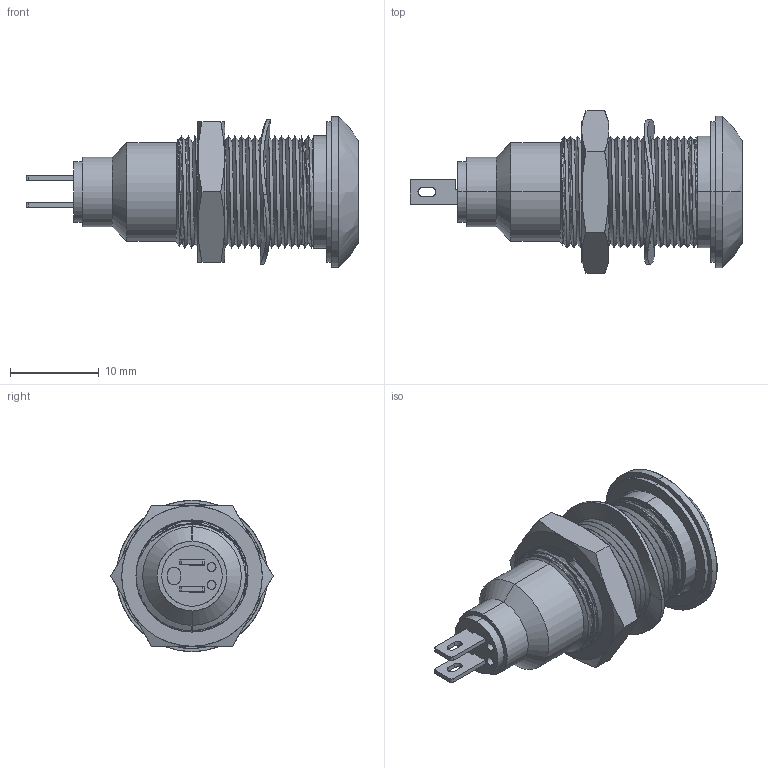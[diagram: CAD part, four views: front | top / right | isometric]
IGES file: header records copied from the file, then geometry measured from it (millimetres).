
Start section: SolidWorks IGES file using analytic representation for surfaces
Global section: file name: C:\Users\paulr\Desktop\STEP-IGES FILES\538 SERIES\538 WITH TAGS.IGS; native system: SolidWorks 2015; preprocessor: SolidWorks 2015; author: PaulR; date: 160106.144831; units: millimetre
Bounding box: 37.35 x 18.24 x 17 mm (x, y, z)
Surface area: 4203.9 mm2 (no closed solid volume)
Topology: 0 solids, 0 shells, 417 faces, 5421 edges, 5421 vertices
Faces by surface type: bspline 250, revolution 167
